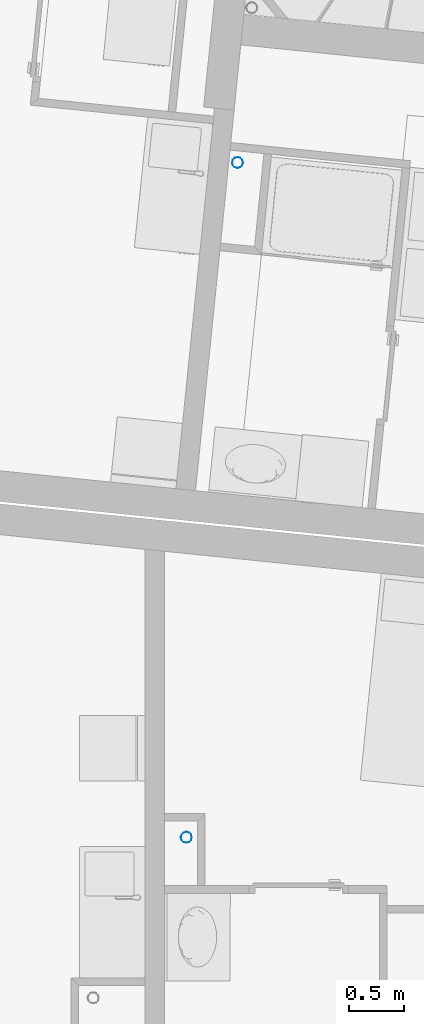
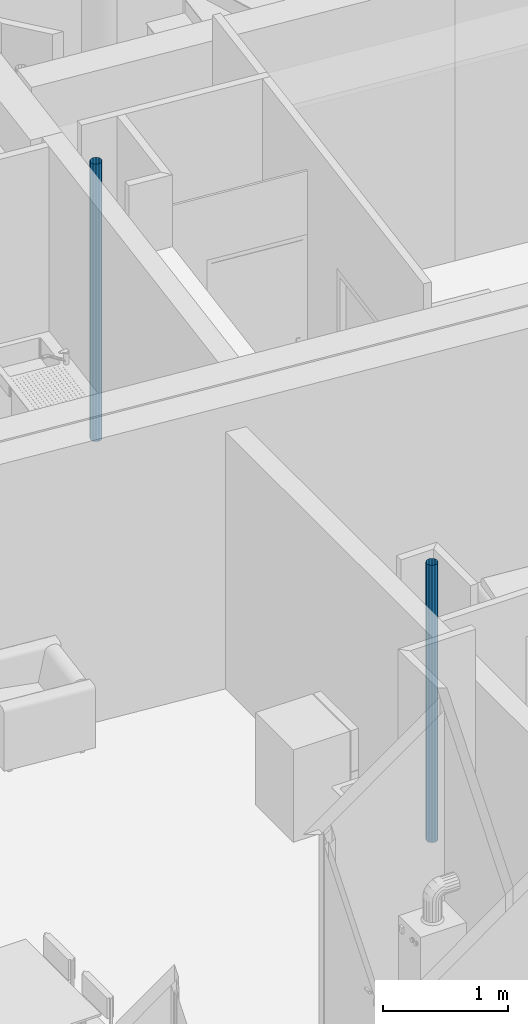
# One storey, part 92 of 164: 2 discrete accessories.
"""IFC2X3 building model written with IfcOpenShell, lengths in millimetres."""

from ifc_helpers import new_model, entity, si_unit, converted_unit, derived_unit, money_unit, direction, frame, origin_with_axes, place, context, subcontext, project, spatial, open_shell, surface_model, type_object, element, save


model = new_model("IFC2X3")

# Units and contexts
model_context = context("Model", 3, precision=0.01, world=origin_with_axes(), true_north=direction((0.0, 1.0)))
body_context = subcontext(model_context, "Body", "Model", "MODEL_VIEW")
ifc_project = project(units=[si_unit("LENGTHUNIT", "METRE", prefix="MILLI"), si_unit("AREAUNIT", "SQUARE_METRE"), si_unit("VOLUMEUNIT", "CUBIC_METRE"), converted_unit("PLANEANGLEUNIT", "DEGREE", entity("IfcPlaneAngleMeasure", 0.0174532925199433), si_unit("PLANEANGLEUNIT", "RADIAN"), dimensions=[0, 0, 0, 0, 0, 0, 0]), money_unit("USD"), converted_unit("TIMEUNIT", "Year", entity("IfcTimeMeasure", 31557600.0), si_unit("TIMEUNIT", "SECOND"), dimensions=[0, 0, 1, 0, 0, 0, 0]), si_unit("MASSUNIT", "GRAM", prefix="KILO"), si_unit("THERMODYNAMICTEMPERATUREUNIT", "DEGREE_CELSIUS"), si_unit("LUMINOUSINTENSITYUNIT", "LUMEN"), si_unit("ENERGYUNIT", "JOULE", prefix="MEGA"), derived_unit("THERMALCONDUCTANCEUNIT", [(si_unit("POWERUNIT", "WATT"), 1), (si_unit("LENGTHUNIT", "METRE"), -1), (si_unit("THERMODYNAMICTEMPERATUREUNIT", "KELVIN"), -1)]), derived_unit("SPECIFICHEATCAPACITYUNIT", [(si_unit("ENERGYUNIT", "JOULE"), 1), (si_unit("MASSUNIT", "GRAM", prefix="KILO"), -1), (si_unit("THERMODYNAMICTEMPERATUREUNIT", "KELVIN"), -1)]), derived_unit("MASSDENSITYUNIT", [(si_unit("MASSUNIT", "GRAM", prefix="KILO"), 1), (si_unit("VOLUMEUNIT", "CUBIC_METRE"), -1)])], contexts=[model_context])

# Site, building, storey
site_placement = place(None, origin_with_axes())
site = spatial("IfcSite", under=ifc_project, at=site_placement, Name="Site", CompositionType="ELEMENT")
building_placement = place(site_placement, origin_with_axes())
building = spatial("IfcBuilding", under=site, at=building_placement, Name="Bâtiment", CompositionType="ELEMENT")
storey_placement = place(building_placement, frame((0.0, 0.0, 5750.0), z_axis=(0.0, 0.0, 1.0), x_axis=(1.0, 0.0, 0.0)))
storey = spatial("IfcBuildingStorey", under=building, at=storey_placement, Name="Etage1", CompositionType="ELEMENT", Elevation=5750.0)

# Discrete accessories
discrete_accessory_type = type_object("IfcDiscreteAccessoryType", Name="Tuyau descente 27")
discrete_accessory_1_placement = place(storey_placement, frame((2224511.53471752, -624386.5804250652, 0.0), z_axis=(0.0, 0.0, 1.0), x_axis=(1.0, 0.0, 0.0)))
element("IfcDiscreteAccessory", 1, at=discrete_accessory_1_placement, inside=storey, type_object=discrete_accessory_type, Name="Obj.-318", context=body_context, shape_type="SurfaceModel", body=[
    surface_model("IfcShellBasedSurfaceModel", [(49.99999999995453, 0.0, 2700.0), (43.30127018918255, -25.00000000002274, 2700.0), (43.30127018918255, -25.00000000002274, 0.0), (49.99999999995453, 0.0, 0.0), (24.99999999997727, -43.30127018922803, 2700.0), (24.99999999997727, -43.30127018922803, 0.0), (43.30127018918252, 24.99999999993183, 2700.0), (43.30127018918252, 24.99999999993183, 0.0), (0.0, -50.0, 2700.0), (0.0, -50.0, 0.0), (24.99999999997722, 43.3012701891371, 2700.0), (24.99999999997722, 43.3012701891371, 0.0), (-24.99999999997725, -43.30127018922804, 2700.0), (-24.99999999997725, -43.30127018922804, 0.0), (0.0, 49.99999999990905, 2700.0), (0.0, 49.99999999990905, 0.0), (-43.30127018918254, -25.00000000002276, 2700.0), (-43.30127018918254, -25.00000000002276, 0.0), (-24.9999999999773, 43.30127018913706, 2700.0), (-24.9999999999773, 43.30127018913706, 0.0), (-49.99999999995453, 0.0, 2700.0), (-49.99999999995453, 0.0, 0.0), (-43.30127018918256, 24.99999999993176, 2700.0), (-43.30127018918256, 24.99999999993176, 0.0)], [open_shell([[[0, 1, 2, 3]], [[1, 4, 5, 2]], [[6, 0, 3, 7]], [[4, 8, 9, 5]], [[10, 6, 7, 11]], [[8, 12, 13, 9]], [[14, 10, 11, 15]], [[12, 16, 17, 13]], [[18, 14, 15, 19]], [[16, 20, 21, 17]], [[22, 18, 19, 23]], [[20, 22, 23, 21]]])]),
])
discrete_accessory_2_placement = place(storey_placement, frame((2224979.771905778, -618142.3301083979, 0.0), z_axis=(0.0, 0.0, 1.0), x_axis=(1.0, 0.0, 0.0)))
element("IfcDiscreteAccessory", 2, at=discrete_accessory_2_placement, inside=storey, type_object=discrete_accessory_type, Name="Obj.-318", context=body_context, shape_type="SurfaceModel", body=[
    surface_model("IfcShellBasedSurfaceModel", [(50.0, -74.73304502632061, 2700.0), (43.30127018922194, -99.73304502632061, 2700.0), (43.30127018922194, -99.73304502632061, 0.0), (50.0, -74.73304502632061, 0.0), (25.00000000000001, -118.0343152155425, 2700.0), (25.00000000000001, -118.0343152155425, 0.0), (43.30127018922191, -49.73304502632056, 2700.0), (43.30127018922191, -49.73304502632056, 0.0), (0.0, -124.7330450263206, 2700.0), (0.0, -124.7330450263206, 0.0), (24.99999999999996, -31.43177483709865, 2700.0), (24.99999999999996, -31.43177483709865, 0.0), (-24.99999999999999, -118.0343152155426, 2700.0), (-24.99999999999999, -118.0343152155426, 0.0), (0.0, -24.73304502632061, 2700.0), (0.0, -24.73304502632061, 0.0), (-43.30127018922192, -99.73304502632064, 2700.0), (-43.30127018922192, -99.73304502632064, 0.0), (-25.00000000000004, -31.43177483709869, 2700.0), (-25.00000000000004, -31.43177483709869, 0.0), (-50.0, -74.73304502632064, 2700.0), (-50.0, -74.73304502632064, 0.0), (-43.30127018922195, -49.73304502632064, 2700.0), (-43.30127018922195, -49.73304502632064, 0.0)], [open_shell([[[0, 1, 2, 3]], [[1, 4, 5, 2]], [[6, 0, 3, 7]], [[4, 8, 9, 5]], [[10, 6, 7, 11]], [[8, 12, 13, 9]], [[14, 10, 11, 15]], [[12, 16, 17, 13]], [[18, 14, 15, 19]], [[16, 20, 21, 17]], [[22, 18, 19, 23]], [[20, 22, 23, 21]]])]),
])

save(model, "model.ifc")
